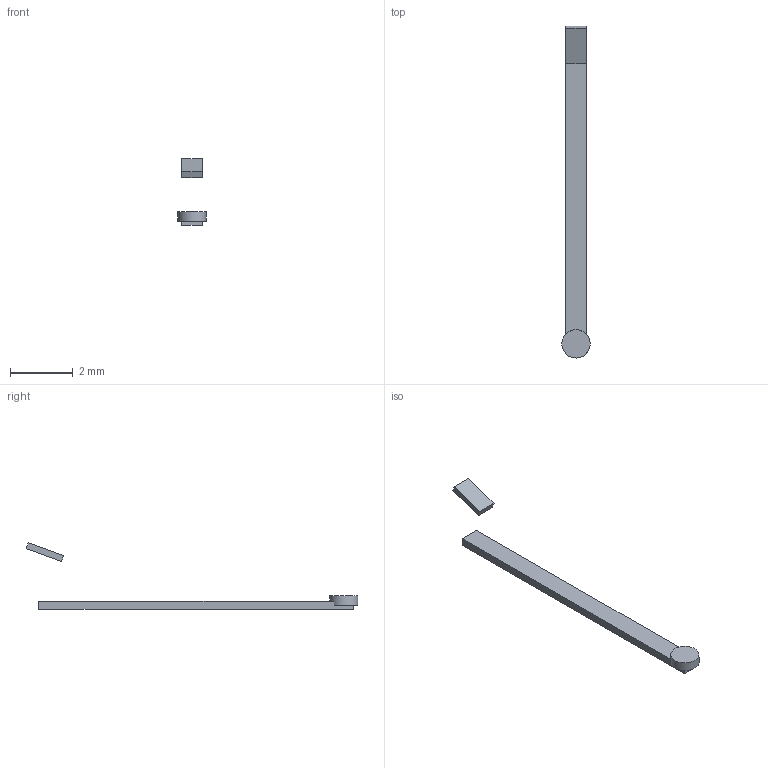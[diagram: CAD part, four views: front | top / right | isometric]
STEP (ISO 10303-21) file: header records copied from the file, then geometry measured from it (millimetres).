
FILE_DESCRIPTION(('Open CASCADE Model'),'2;1');
FILE_NAME('Open CASCADE Shape Model','2026-10-24T14:45:54',('Author'),( 'Open CASCADE'),'Open CASCADE STEP processor 7.7','Open CASCADE 7.7' ,'Unknown');
FILE_SCHEMA(('AUTOMOTIVE_DESIGN { 1 0 10303 214 1 1 1 1 }'));
Length unit declared in the file: millimetre
Products named in the file (3): Open CASCADE STEP translator 7.7 8; Open CASCADE STEP translator 7.7 8.1; Open CASCADE STEP translator 7.7 8.2
Assembly tree (2 placements, depth 2):
  Open CASCADE STEP translator 7.7 8
    Open CASCADE STEP translator 7.7 8.1
    Open CASCADE STEP translator 7.7 8.2
Bounding box: 0.9 x 10.56 x 2.12 mm (x, y, z)
Volume: 2 mm3; surface area: 21.7 mm2
Topology: 2 solids, 2 shells, 15 faces, 33 edges, 22 vertices
Faces by surface type: plane 14, cylinder 1
Full cylindrical faces by diameter (mm): 0.9 x1
Entity records: 877 total; most frequent: CARTESIAN_POINT 155, DIRECTION 128, LINE 81, VECTOR 81, ORIENTED_EDGE 66, PCURVE 66, DEFINITIONAL_REPRESENTATION 66, EDGE_CURVE 33
